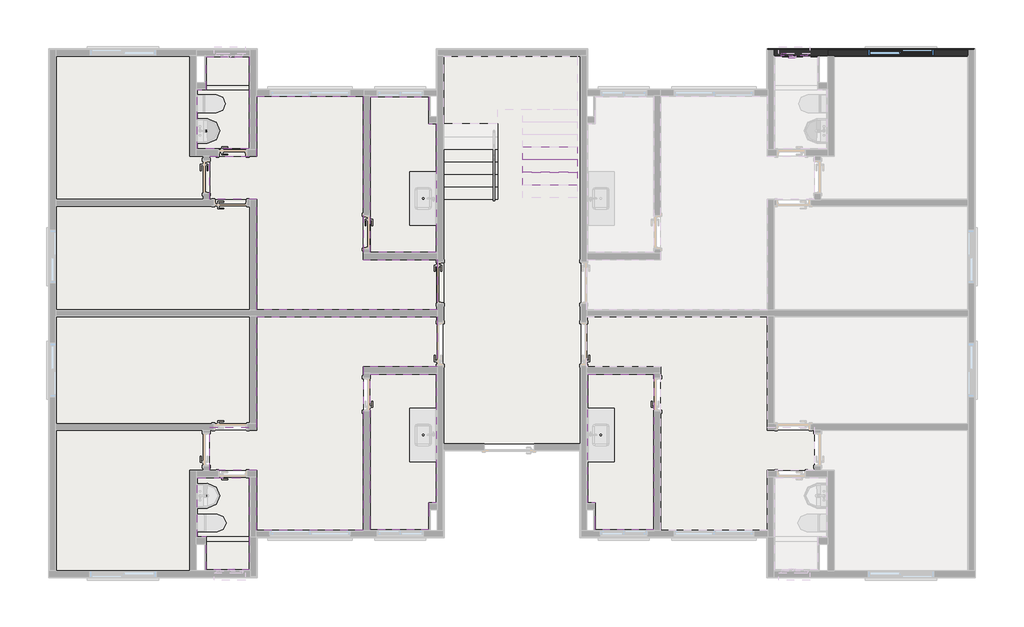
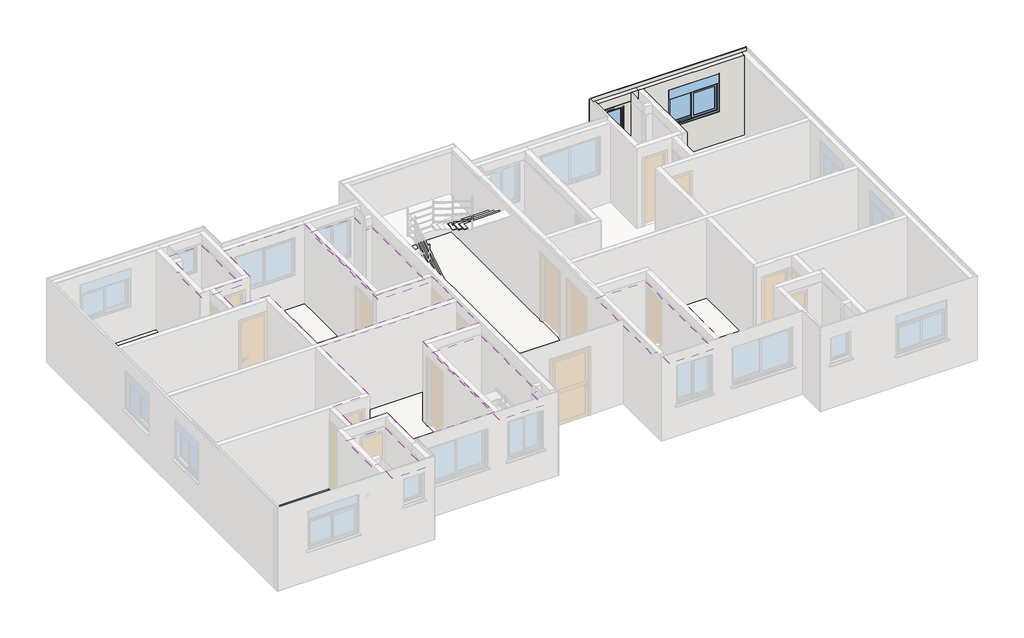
# One storey, part 10 of 11: 27 slabs, 7 coverings, 5 walls, 2 windows.
"""IFC4 building model written with IfcOpenShell, lengths in millimetres."""

from ifc_helpers import new_model, si_unit, frame, origin, origin_with_axes, place, context, project, spatial, polyline, outline, extrude, faceted_brep, transform, mapped, element, save
from components import window_150x120_581fea6a, window_60x80_d31b0025

model = new_model("IFC4")

# Units and contexts
model_context = context("Model", 3, world=origin())
ifc_project = project(units=[si_unit("LENGTHUNIT", "METRE", prefix="MILLI")], contexts=[model_context])

# Site, building, storey
site = spatial("IfcSite", under=ifc_project)
building = spatial("IfcBuilding", under=site)
storey = spatial("IfcBuildingStorey", under=building, Name="Térreo", Elevation=0.0)

# Coverings
placement = place(None, origin())
element("IfcCovering", 1, ObjectType="Forro - Gesso acartonado + Pintura", at=placement, inside=storey, context=model_context, shape_type="Brep", body=[
    faceted_brep([(8536.99631, 1539.9983274, 2201.0), (7233.0017324, 1539.9983274, 2201.0), (7233.0017324, 2145.0132549, 2201.0), (7233.0017324, 5033.6603139, 2201.0), (8709.9963008, 5033.6603139, 2201.0), (8709.9963008, 2145.0132549, 2201.0), (8536.99631, 2145.0132549, 2201.0), (7233.0017324, 1539.9983274, 2221.0), (8536.99631, 1539.9983274, 2221.0), (8536.99631, 2145.0132549, 2221.0), (8709.9963008, 2145.0132549, 2221.0), (8709.9963008, 5033.6603139, 2221.0), (7233.0017324, 5033.6603139, 2221.0), (7233.0017324, 2145.0132549, 2221.0)], [[[0, 1, 2, 3, 4, 5, 6]], [[7, 8, 9, 10, 11, 12, 13]], [[8, 7, 1, 0]], [[9, 8, 0, 6]], [[10, 9, 6, 5]], [[11, 10, 5, 4]], [[12, 11, 4, 3]], [[7, 13, 12, 3, 2, 1]]]),
    faceted_brep([(7233.0017324, 1539.9983274, 2200.0), (8536.99631, 1539.9983274, 2200.0), (8536.99631, 1539.9983274, 2201.0), (7233.0017324, 1539.9983274, 2201.0), (8536.99631, 2145.0132549, 2200.0), (8536.99631, 2145.0132549, 2201.0), (8709.9963008, 2145.0132549, 2200.0), (8709.9963008, 2145.0132549, 2201.0), (8709.9963008, 5033.6603139, 2200.0), (8709.9963008, 5033.6603139, 2201.0), (7233.0017324, 5033.6603139, 2200.0), (7233.0017324, 5033.6603139, 2201.0), (7233.0017324, 2145.0132549, 2200.0), (7233.0017324, 2145.0132549, 2201.0)], [[[0, 1, 2, 3]], [[1, 4, 5, 2]], [[4, 6, 7, 5]], [[6, 8, 9, 7]], [[8, 10, 11, 9]], [[12, 0, 3, 13, 11, 10]], [[3, 2, 5, 7, 9, 11, 13]], [[0, 12, 10, 8, 6, 4, 1]]]),
])
element("IfcCovering", 2, ObjectType="Forro - Gesso acartonado + Pintura", at=placement, inside=storey, context=model_context, shape_type="Brep", body=[
    faceted_brep([(7233.0017324, 11260.0223004, 2201.0), (8536.99631, 11260.0223004, 2201.0), (8536.99631, 10655.0073729, 2201.0), (8709.9963008, 10655.0073729, 2201.0), (8709.9963008, 7766.3603139, 2201.0), (7233.0017324, 7766.3603139, 2201.0), (7233.0017324, 10655.0073729, 2201.0), (7233.0017324, 11260.0223004, 2221.0), (7233.0017324, 10655.0073729, 2221.0), (7233.0017324, 7766.3603139, 2221.0), (8709.9963008, 7766.3603139, 2221.0), (8709.9963008, 10655.0073729, 2221.0), (8536.99631, 10655.0073729, 2221.0), (8536.99631, 11260.0223004, 2221.0)], [[[0, 1, 2, 3, 4, 5, 6]], [[7, 8, 9, 10, 11, 12, 13]], [[7, 13, 1, 0]], [[13, 12, 2, 1]], [[12, 11, 3, 2]], [[11, 10, 4, 3]], [[10, 9, 5, 4]], [[9, 8, 7, 0, 6, 5]]]),
    faceted_brep([(8536.99631, 11260.0223004, 2200.0), (7233.0017324, 11260.0223004, 2200.0), (7233.0017324, 11260.0223004, 2201.0), (8536.99631, 11260.0223004, 2201.0), (8536.99631, 10655.0073729, 2200.0), (8536.99631, 10655.0073729, 2201.0), (8709.9963008, 10655.0073729, 2200.0), (8709.9963008, 10655.0073729, 2201.0), (8709.9963008, 7766.3603139, 2200.0), (8709.9963008, 7766.3603139, 2201.0), (7233.0017324, 7766.3603139, 2200.0), (7233.0017324, 7766.3603139, 2201.0), (7233.0017324, 10655.0073729, 2200.0), (7233.0017324, 10655.0073729, 2201.0)], [[[0, 1, 2, 3]], [[4, 0, 3, 5]], [[6, 4, 5, 7]], [[8, 6, 7, 9]], [[10, 8, 9, 11]], [[12, 10, 11, 13, 2, 1]], [[3, 2, 13, 11, 9, 7, 5]], [[1, 0, 4, 6, 8, 10, 12]]]),
])
element("IfcCovering", 3, ObjectType="Forro - Gesso acartonado + Pintura", at=placement, inside=storey, context=model_context, shape_type="Brep", body=[
    faceted_brep([(3339.9976538, 2709.9967615, 2201.0), (4509.9990083, 2709.9967615, 2201.0), (4509.9990083, 1379.9983274, 2201.0), (4509.9990083, 639.9950349, 2201.0), (3549.99398, 639.9950349, 2201.0), (3549.99398, 1379.9983274, 2201.0), (3339.9976538, 1379.9983274, 2201.0), (4509.9990083, 2709.9967615, 2221.0), (3339.9976538, 2709.9967615, 2221.0), (3339.9976538, 1379.9983274, 2221.0), (3549.99398, 1379.9983274, 2221.0), (3549.99398, 639.9950349, 2221.0), (4509.9990083, 639.9950349, 2221.0), (4509.9990083, 1379.9983274, 2221.0)], [[[0, 1, 2, 3, 4, 5, 6]], [[7, 8, 9, 10, 11, 12, 13]], [[8, 7, 1, 0]], [[9, 8, 0, 6]], [[10, 9, 6, 5]], [[11, 10, 5, 4]], [[12, 11, 4, 3]], [[7, 13, 12, 3, 2, 1]]]),
    faceted_brep([(4509.9990083, 2709.9967615, 2200.0), (3339.9976538, 2709.9967615, 2200.0), (3339.9976538, 2709.9967615, 2201.0), (4509.9990083, 2709.9967615, 2201.0), (3339.9976538, 1379.9983274, 2200.0), (3339.9976538, 1379.9983274, 2201.0), (3549.99398, 1379.9983274, 2200.0), (3549.99398, 1379.9983274, 2201.0), (3549.99398, 639.9950349, 2200.0), (3549.99398, 639.9950349, 2201.0), (4509.9990083, 639.9950349, 2200.0), (4509.9990083, 639.9950349, 2201.0), (4509.9990083, 1379.9983274, 2200.0), (4509.9990083, 1379.9983274, 2201.0)], [[[0, 1, 2, 3]], [[1, 4, 5, 2]], [[4, 6, 7, 5]], [[6, 8, 9, 7]], [[8, 10, 11, 9]], [[12, 0, 3, 13, 11, 10]], [[3, 2, 5, 7, 9, 11, 13]], [[0, 12, 10, 8, 6, 4, 1]]]),
])
element("IfcCovering", 4, ObjectType="Forro - Gesso acartonado + Pintura", at=placement, inside=storey, context=model_context, shape_type="Brep", body=[
    faceted_brep([(4509.9990083, 10090.0238664, 2201.0), (3339.9976538, 10090.0238664, 2201.0), (3339.9976538, 11420.0223004, 2201.0), (3549.99398, 11420.0223004, 2201.0), (3549.99398, 12160.025593, 2201.0), (4509.9990083, 12160.025593, 2201.0), (4509.9990083, 11420.0223004, 2201.0), (4509.9990083, 10090.0238664, 2221.0), (4509.9990083, 11420.0223004, 2221.0), (4509.9990083, 12160.025593, 2221.0), (3549.99398, 12160.025593, 2221.0), (3549.99398, 11420.0223004, 2221.0), (3339.9976538, 11420.0223004, 2221.0), (3339.9976538, 10090.0238664, 2221.0)], [[[0, 1, 2, 3, 4, 5, 6]], [[7, 8, 9, 10, 11, 12, 13]], [[7, 13, 1, 0]], [[13, 12, 2, 1]], [[12, 11, 3, 2]], [[11, 10, 4, 3]], [[10, 9, 5, 4]], [[9, 8, 7, 0, 6, 5]]]),
    faceted_brep([(3339.9976538, 10090.0238664, 2200.0), (4509.9990083, 10090.0238664, 2200.0), (4509.9990083, 10090.0238664, 2201.0), (3339.9976538, 10090.0238664, 2201.0), (3339.9976538, 11420.0223004, 2200.0), (3339.9976538, 11420.0223004, 2201.0), (3549.99398, 11420.0223004, 2200.0), (3549.99398, 11420.0223004, 2201.0), (3549.99398, 12160.025593, 2200.0), (3549.99398, 12160.025593, 2201.0), (4509.9990083, 12160.025593, 2200.0), (4509.9990083, 12160.025593, 2201.0), (4509.9990083, 11420.0223004, 2200.0), (4509.9990083, 11420.0223004, 2201.0)], [[[0, 1, 2, 3]], [[4, 0, 3, 5]], [[6, 4, 5, 7]], [[8, 6, 7, 9]], [[10, 8, 9, 11]], [[12, 10, 11, 13, 2, 1]], [[3, 2, 13, 11, 9, 7, 5]], [[1, 0, 4, 6, 8, 10, 12]]]),
])
element("IfcCovering", 5, ObjectType="Forro - Gesso acartonado + Pintura", at=placement, inside=storey, context=model_context, shape_type="Brep", body=[
    faceted_brep([(13586.992975, 1539.9983274, 2201.0), (12282.9983974, 1539.9983274, 2201.0), (12282.9983974, 2145.0132549, 2201.0), (12109.9984066, 2145.0132549, 2201.0), (12109.9984066, 5033.6603139, 2201.0), (13586.992975, 5033.6603139, 2201.0), (13586.992975, 2145.0132549, 2201.0), (13586.992975, 1539.9983274, 2221.0), (13586.992975, 2145.0132549, 2221.0), (13586.992975, 5033.6603139, 2221.0), (12109.9984066, 5033.6603139, 2221.0), (12109.9984066, 2145.0132549, 2221.0), (12282.9983974, 2145.0132549, 2221.0), (12282.9983974, 1539.9983274, 2221.0)], [[[0, 1, 2, 3, 4, 5, 6]], [[7, 8, 9, 10, 11, 12, 13]], [[7, 13, 1, 0]], [[13, 12, 2, 1]], [[12, 11, 3, 2]], [[11, 10, 4, 3]], [[10, 9, 5, 4]], [[9, 8, 7, 0, 6, 5]]]),
    faceted_brep([(12282.9983974, 1539.9983274, 2200.0), (13586.992975, 1539.9983274, 2200.0), (13586.992975, 1539.9983274, 2201.0), (12282.9983974, 1539.9983274, 2201.0), (12282.9983974, 2145.0132549, 2200.0), (12282.9983974, 2145.0132549, 2201.0), (12109.9984066, 2145.0132549, 2200.0), (12109.9984066, 2145.0132549, 2201.0), (12109.9984066, 5033.6603139, 2200.0), (12109.9984066, 5033.6603139, 2201.0), (13586.992975, 5033.6603139, 2200.0), (13586.992975, 5033.6603139, 2201.0), (13586.992975, 2145.0132549, 2200.0), (13586.992975, 2145.0132549, 2201.0)], [[[0, 1, 2, 3]], [[4, 0, 3, 5]], [[6, 4, 5, 7]], [[8, 6, 7, 9]], [[10, 8, 9, 11]], [[12, 10, 11, 13, 2, 1]], [[3, 2, 13, 11, 9, 7, 5]], [[1, 0, 4, 6, 8, 10, 12]]]),
])
element("IfcCovering", 6, ObjectType="Textura Laje", at=placement, inside=storey, context=model_context, shape_type="SolidModel", body=[
    faceted_brep([(4675.9996867, 8956.0244803, 2510.0), (4675.9996867, 6476.0103139, 2510.0), (8729.9963008, 6476.0103139, 2510.0), (8729.9963008, 7600.3603139, 2510.0), (8709.865378, 7600.3603139, 2510.0), (7066.9986861, 7600.3603139, 2510.0), (7066.9986861, 11274.0223004, 2510.0), (4675.9990083, 11274.0223004, 2510.0), (4675.9990083, 9924.0238664, 2510.0), (3625.9980641, 9924.0238664, 2510.0), (3625.9980641, 8956.0244803, 2510.0), (4675.9996867, 6476.0103139, 2509.0), (4675.9996867, 8956.0244803, 2509.0), (3625.9980641, 8956.0244803, 2509.0), (3625.9980641, 9924.0238664, 2509.0), (4675.9990083, 9924.0238664, 2509.0), (4675.9990083, 11274.0223004, 2509.0), (7066.9986861, 11274.0223004, 2509.0), (7066.9986861, 7600.3603139, 2509.0), (8709.865378, 7600.3603139, 2509.0), (8729.9963008, 7600.3603139, 2509.0), (8729.9963008, 6476.0103139, 2509.0)], [[[0, 1, 2, 3, 4, 5, 6, 7, 8, 9, 10]], [[11, 12, 13, 14, 15, 16, 17, 18, 19, 20, 21]], [[1, 0, 12, 11]], [[2, 1, 11, 21]], [[3, 2, 21, 20]], [[5, 4, 3, 20, 19, 18]], [[6, 5, 18, 17]], [[7, 6, 17, 16]], [[8, 7, 16, 15]], [[9, 8, 15, 14]], [[10, 9, 14, 13]], [[0, 10, 13, 12]]]),
    extrude(outline(polyline([(174.9992567, 6475.0103139), (174.9992567, 8805.0103139), (4524.9996867, 8805.0103139), (4524.9996867, 6475.0103139), (174.9992567, 6475.0103139)])), frame((0.0, 0.0, 2509.0), z_axis=(0.0, 0.0, 1.0), x_axis=(1.0, 0.0, 0.0)), (0.0, 0.0, 1.0), 1.0),
    extrude(outline(polyline([(174.9991825, 12175.0252435), (3174.9977061, 12175.0252435), (3174.9977061, 9925.0238664), (3474.9980641, 9925.0238664), (3474.9980641, 8955.0254246), (174.9991825, 8955.0254246), (174.9991825, 12175.0252435)])), frame((0.0, 0.0, 2509.0), z_axis=(0.0, 0.0, 1.0), x_axis=(1.0, 0.0, 0.0)), (0.0, 0.0, 1.0), 1.0),
    faceted_brep([(4675.9996867, 8956.0244803, 2508.0), (3625.9980641, 8956.0244803, 2508.0), (3625.9980641, 9924.0238664, 2508.0), (4675.9990083, 9924.0238664, 2508.0), (4675.9990083, 11274.0223004, 2508.0), (7066.9986861, 11274.0223004, 2508.0), (7066.9986861, 7600.3603139, 2508.0), (8709.865378, 7600.3603139, 2508.0), (8729.9963008, 7600.3603139, 2508.0), (8729.9963008, 6476.0103139, 2508.0), (4675.9996867, 6476.0103139, 2508.0), (4675.9996867, 8956.0244803, 2509.0), (4675.9996867, 6476.0103139, 2509.0), (8729.9963008, 6476.0103139, 2509.0), (8729.9963008, 7600.3603139, 2509.0), (8709.865378, 7600.3603139, 2509.0), (7066.9986861, 7600.3603139, 2509.0), (7066.9986861, 11274.0223004, 2509.0), (4675.9990083, 11274.0223004, 2509.0), (4675.9990083, 9924.0238664, 2509.0), (3625.9980641, 9924.0238664, 2509.0), (3625.9980641, 8956.0244803, 2509.0)], [[[0, 1, 2, 3, 4, 5, 6, 7, 8, 9, 10]], [[11, 12, 13, 14, 15, 16, 17, 18, 19, 20, 21]], [[0, 10, 12, 11]], [[10, 9, 13, 12]], [[9, 8, 14, 13]], [[7, 6, 16, 15, 14, 8]], [[6, 5, 17, 16]], [[5, 4, 18, 17]], [[4, 3, 19, 18]], [[3, 2, 20, 19]], [[2, 1, 21, 20]], [[1, 0, 11, 21]]]),
    extrude(outline(polyline([(174.9992567, 8805.0103139), (4524.9996867, 8805.0103139), (4524.9996867, 6475.0103139), (174.9992567, 6475.0103139), (174.9992567, 8805.0103139)])), frame((0.0, 0.0, 2508.0), z_axis=(0.0, 0.0, 1.0), x_axis=(1.0, 0.0, 0.0)), (0.0, 0.0, 1.0), 1.0),
    extrude(outline(polyline([(174.9991825, 12175.0252435), (3174.9977061, 12175.0252435), (3174.9977061, 9925.0238664), (3474.9980641, 9925.0238664), (3474.9980641, 8955.0254246), (174.9991825, 8955.0254246), (174.9991825, 12175.0252435)])), frame((0.0, 0.0, 2508.0), z_axis=(0.0, 0.0, 1.0), x_axis=(1.0, 0.0, 0.0)), (0.0, 0.0, 1.0), 1.0),
])
element("IfcCovering", 7, ObjectType="Textura Laje", at=placement, inside=storey, context=model_context, shape_type="SolidModel", body=[
    faceted_brep([(4675.9996867, 3843.9961476, 2510.0), (4675.9996867, 6324.0103139, 2510.0), (4675.9996867, 6324.0103139, 2509.0), (4675.9996867, 3843.9961476, 2509.0), (8729.9963008, 6324.0103139, 2510.0), (8729.9963008, 6324.0103139, 2509.0), (8729.9963008, 5199.6603139, 2510.0), (8729.9963008, 5199.6603139, 2509.0), (7066.9986861, 5199.6603139, 2510.0), (7066.9986861, 1525.9983274, 2510.0), (7066.9986861, 1525.9983274, 2509.0), (7066.9986861, 5199.6603139, 2509.0), (4675.9990083, 1525.9983274, 2510.0), (4675.9990083, 1525.9983274, 2509.0), (4675.9990083, 2875.9967615, 2510.0), (4675.9990083, 2875.9967615, 2509.0), (3625.9980641, 2875.9967615, 2510.0), (3625.9980641, 2875.9967615, 2509.0), (3625.9980641, 3843.9961476, 2510.0), (3625.9980641, 3843.9961476, 2509.0), (8709.865378, 5199.6603139, 2510.0), (8709.865378, 5199.6603139, 2509.0)], [[[0, 1, 2, 3]], [[1, 4, 5, 2]], [[4, 6, 7, 5]], [[8, 9, 10, 11]], [[9, 12, 13, 10]], [[12, 14, 15, 13]], [[14, 16, 17, 15]], [[16, 18, 19, 17]], [[18, 0, 3, 19]], [[6, 20, 8, 11, 21, 7]], [[0, 18, 16, 14, 12, 9, 8, 20, 6, 4, 1]], [[3, 2, 5, 7, 21, 11, 10, 13, 15, 17, 19]]]),
    extrude(outline(polyline([(3174.9977061, 624.9953844), (175.9991825, 624.9953844), (175.9991825, 3773.9951411), (3474.9980641, 3773.9951411), (3474.9980641, 2874.9967615), (3174.9977061, 2874.9967615), (3174.9977061, 624.9953844)])), frame((0.0, 0.0, 2509.0), z_axis=(0.0, 0.0, 1.0), x_axis=(1.0, 0.0, 0.0)), (0.0, 0.0, 1.0), 1.0),
    extrude(outline(polyline([(174.9992567, 3926.5903488), (174.9992567, 6325.0103139), (4524.9996867, 6325.0103139), (4524.9996867, 3926.5903488), (174.9992567, 3926.5903488)])), frame((0.0, 0.0, 2509.0), z_axis=(0.0, 0.0, 1.0), x_axis=(1.0, 0.0, 0.0)), (0.0, 0.0, 1.0), 1.0),
    faceted_brep([(4675.9996867, 6324.0103139, 2508.0), (4675.9996867, 3843.9961476, 2508.0), (4675.9996867, 3843.9961476, 2509.0), (4675.9996867, 6324.0103139, 2509.0), (8729.9963008, 6324.0103139, 2508.0), (8729.9963008, 6324.0103139, 2509.0), (8729.9963008, 5199.6603139, 2508.0), (8729.9963008, 5199.6603139, 2509.0), (7066.9986861, 1525.9983274, 2508.0), (7066.9986861, 5199.6603139, 2508.0), (7066.9986861, 5199.6603139, 2509.0), (7066.9986861, 1525.9983274, 2509.0), (4675.9990083, 1525.9983274, 2508.0), (4675.9990083, 1525.9983274, 2509.0), (4675.9990083, 2875.9967615, 2508.0), (4675.9990083, 2875.9967615, 2509.0), (3625.9980641, 2875.9967615, 2508.0), (3625.9980641, 2875.9967615, 2509.0), (3625.9980641, 3843.9961476, 2508.0), (3625.9980641, 3843.9961476, 2509.0), (8709.865378, 5199.6603139, 2508.0), (8709.865378, 5199.6603139, 2509.0)], [[[0, 1, 2, 3]], [[4, 0, 3, 5]], [[6, 4, 5, 7]], [[8, 9, 10, 11]], [[12, 8, 11, 13]], [[14, 12, 13, 15]], [[16, 14, 15, 17]], [[18, 16, 17, 19]], [[1, 18, 19, 2]], [[1, 0, 4, 6, 20, 9, 8, 12, 14, 16, 18]], [[20, 6, 7, 21, 10, 9]], [[3, 2, 19, 17, 15, 13, 11, 10, 21, 7, 5]]]),
    extrude(outline(polyline([(174.9992567, 3926.5903488), (174.9992567, 6325.0103139), (4524.9996867, 6325.0103139), (4524.9996867, 3926.5903488), (174.9992567, 3926.5903488)])), frame((0.0, 0.0, 2508.0), z_axis=(0.0, 0.0, 1.0), x_axis=(1.0, 0.0, 0.0)), (0.0, 0.0, 1.0), 1.0),
    extrude(outline(polyline([(175.9991825, 624.9953844), (175.9991825, 3773.9951411), (3474.9980641, 3773.9951411), (3474.9980641, 2874.9967615), (3174.9977061, 2874.9967615), (3174.9977061, 624.9953844), (175.9991825, 624.9953844)])), frame((0.0, 0.0, 2508.0), z_axis=(0.0, 0.0, 1.0), x_axis=(1.0, 0.0, 0.0)), (0.0, 0.0, 1.0), 1.0),
])

# Slabs
element("IfcSlab", 8, ObjectType="Pedra Basalto", at=placement, inside=storey, context=model_context, shape_type="SweptSolid", body=[
    extrude(outline(polyline([(4509.99398, 11515.0235306), (4509.99398, 11415.0235306), (3529.99398, 11415.0235306), (3529.99398, 11515.0235306), (4509.99398, 11515.0235306)])), frame((0.0, 0.0, 90.0), z_axis=(0.0, 0.0, 1.0), x_axis=(1.0, 0.0, 0.0)), (0.0, 0.0, 1.0), 20.0),
])
element("IfcSlab", 9, ObjectType="Cerâmica piso + Impermeabilização", at=placement, inside=storey, context=model_context, shape_type="SweptSolid", body=[
    extrude(outline(polyline([(4509.99398, 1294.9970972), (4509.99398, 639.9950349), (3549.99398, 639.9950349), (3549.99398, 1294.9970972), (4509.99398, 1294.9970972)])), frame((0.0, 0.0, -1.0), z_axis=(0.0, 0.0, 1.0), x_axis=(1.0, 0.0, 0.0)), (0.0, 0.0, 1.0), 11.0),
])
element("IfcSlab", 10, ObjectType="Pedra Basalto", at=placement, inside=storey, context=model_context, shape_type="SweptSolid", body=[
    extrude(outline(polyline([(4509.99398, 1284.9970972), (3529.99398, 1284.9970972), (3529.99398, 1384.9970972), (4509.99398, 1384.9970972), (4509.99398, 1284.9970972)])), frame((0.0, 0.0, 90.0), z_axis=(0.0, 0.0, 1.0), x_axis=(1.0, 0.0, 0.0)), (0.0, 0.0, 1.0), 20.0),
])
element("IfcSlab", 11, ObjectType="Cerâmica", at=placement, inside=storey, context=model_context, shape_type="SweptSolid", body=[
    extrude(outline(polyline([(4509.9990083, 1379.9970972), (3339.9976538, 1379.9970972), (3339.9976538, 2709.9967615), (4509.9990083, 2709.9967615), (4509.9990083, 1379.9970972)])), origin_with_axes(), (0.0, 0.0, 1.0), 10.0),
])
element("IfcSlab", 12, ObjectType="Cerâmica", at=placement, inside=storey, context=model_context, shape_type="SweptSolid", body=[
    extrude(outline(polyline([(8709.9963008, 5033.6603139), (8709.9963008, 2145.0132549), (8536.99631, 2145.0132549), (8536.99631, 1539.9983274), (7233.0017324, 1539.9983274), (7233.0017324, 2145.0132549), (7233.0017324, 5033.6603139), (8709.9963008, 5033.6603139)])), origin_with_axes(), (0.0, 0.0, 1.0), 10.0),
])
element("IfcSlab", 13, ObjectType="Cerâmica piso + Impermeabilização", at=placement, inside=storey, context=model_context, shape_type="SweptSolid", body=[
    extrude(outline(polyline([(4509.99398, 11505.0235306), (3549.99398, 11505.0235306), (3549.99398, 12160.025593), (4509.99398, 12160.025593), (4509.99398, 11505.0235306)])), frame((0.0, 0.0, -1.0), z_axis=(0.0, 0.0, 1.0), x_axis=(1.0, 0.0, 0.0)), (0.0, 0.0, 1.0), 11.0),
])
element("IfcSlab", 14, ObjectType="Cerâmica", at=placement, inside=storey, context=model_context, shape_type="SweptSolid", body=[
    extrude(outline(polyline([(4509.9990083, 11420.0235306), (4509.9990083, 10090.0238664), (3339.9976538, 10090.0238664), (3339.9976538, 11420.0235306), (4509.9990083, 11420.0235306)])), origin_with_axes(), (0.0, 0.0, 1.0), 10.0),
])
element("IfcSlab", 15, ObjectType="Cerâmica", at=placement, inside=storey, context=model_context, shape_type="SweptSolid", body=[
    extrude(outline(polyline([(8709.9963008, 7766.3603139), (7233.0017324, 7766.3603139), (7233.0017324, 10655.0073729), (7233.0017324, 11260.0223004), (8536.99631, 11260.0223004), (8536.99631, 10655.0073729), (8709.9963008, 10655.0073729), (8709.9963008, 7766.3603139)])), origin_with_axes(), (0.0, 0.0, 1.0), 10.0),
])
element("IfcSlab", 16, ObjectType="Cerâmica", at=placement, inside=storey, context=model_context, shape_type="SweptSolid", body=[
    extrude(outline(polyline([(8723.9963008, 6324.0103139), (8723.9963008, 5199.6603139), (7066.9986861, 5199.6603139), (7066.9986861, 1519.9983274), (4675.9990083, 1519.9983274), (4675.9990083, 2875.9967615), (3625.9980641, 2875.9967615), (3625.9980641, 3773.9951411), (4675.9996867, 3773.9951411), (4675.9996867, 6324.0103139), (8723.9963008, 6324.0103139)])), origin_with_axes(), (0.0, 0.0, 1.0), 10.0),
])
element("IfcSlab", 17, ObjectType="Vinilico", at=placement, inside=storey, context=model_context, shape_type="SweptSolid", body=[
    extrude(outline(polyline([(4523.9996867, 6324.0103139), (4523.9996867, 3925.9951411), (175.9991825, 3925.9951411), (175.9991825, 6324.0103139), (4523.9996867, 6324.0103139)])), origin_with_axes(), (0.0, 0.0, 1.0), 10.0),
])
element("IfcSlab", 18, ObjectType="Vinilico", at=placement, inside=storey, context=model_context, shape_type="SweptSolid", body=[
    extrude(outline(polyline([(4523.9996867, 8804.0244803), (4523.9996867, 6476.0103139), (175.9991825, 6476.0103139), (175.9991825, 8804.0244803), (4523.9996867, 8804.0244803)])), origin_with_axes(), (0.0, 0.0, 1.0), 10.0),
])
element("IfcSlab", 19, ObjectType="Cerâmica", at=placement, inside=storey, context=model_context, shape_type="SweptSolid", body=[
    extrude(outline(polyline([(8723.9963008, 6476.0103139), (4675.9996867, 6476.0103139), (4675.9996867, 8956.0244803), (3625.9980641, 8956.0244803), (3625.9980641, 9924.0238664), (4675.9990083, 9924.0238664), (4675.9990083, 11280.0223004), (7066.9986861, 11280.0223004), (7066.9986861, 7600.3603139), (8723.9963008, 7600.3603139), (8723.9963008, 6476.0103139)])), origin_with_axes(), (0.0, 0.0, 1.0), 10.0),
])
element("IfcSlab", 20, ObjectType="Vinilico", at=placement, inside=storey, context=model_context, shape_type="SweptSolid", body=[
    extrude(outline(polyline([(175.9991825, 12174.0253822), (3173.9976538, 12174.0253822), (3173.9976538, 9924.0253822), (3473.9976538, 9924.0253822), (3473.9976538, 8954.0253822), (175.9991825, 8954.0253822), (175.9991825, 12174.0253822)])), origin_with_axes(), (0.0, 0.0, 1.0), 10.0),
])
element("IfcSlab", 21, ObjectType="Vinilico", at=placement, inside=storey, context=model_context, shape_type="SweptSolid", body=[
    extrude(outline(polyline([(175.9991825, 625.9952456), (175.9991825, 3845.9952456), (3473.9976538, 3845.9952456), (3473.9976538, 2875.9952456), (3173.9976538, 2875.9952456), (3173.9976538, 625.9952456), (175.9991825, 625.9952456)])), origin_with_axes(), (0.0, 0.0, 1.0), 10.0),
])
element("IfcSlab", 22, ObjectType="Cerâmica", at=placement, inside=storey, context=model_context, shape_type="SweptSolid", body=[
    extrude(outline(polyline([(12109.9984066, 5033.6603139), (13586.992975, 5033.6603139), (13586.992975, 2145.0132549), (13586.992975, 1539.9983274), (12282.9983974, 1539.9983274), (12282.9983974, 2145.0132549), (12109.9984066, 2145.0132549), (12109.9984066, 5033.6603139)])), origin_with_axes(), (0.0, 0.0, 1.0), 10.0),
])
element("IfcSlab", 23, ObjectType="Cerâmica", at=placement, inside=storey, context=model_context, shape_type="SweptSolid", body=[
    extrude(outline(polyline([(12095.9984066, 6324.0103139), (16143.9950207, 6324.0103139), (16143.9950207, 3773.9951411), (17193.9966432, 3773.9951411), (17193.9966432, 2875.9967615), (16143.9956991, 2875.9967615), (16143.9956991, 1519.9983274), (13752.9960213, 1519.9983274), (13752.9960213, 5199.6603139), (12095.9984066, 5199.6603139), (12095.9984066, 6324.0103139)])), origin_with_axes(), (0.0, 0.0, 1.0), 10.0),
])
element("IfcSlab", 24, ObjectType="Soleira", at=placement, inside=storey, context=model_context, shape_type="SweptSolid", body=[
    extrude(outline(polyline([(4467.999908, 8956.0244803), (4467.999908, 8804.0244803), (3717.999908, 8804.0244803), (3717.999908, 8956.0244803), (4467.999908, 8956.0244803)])), origin_with_axes(), (0.0, 0.0, 1.0), 10.0),
])
element("IfcSlab", 25, ObjectType="Soleira", at=placement, inside=storey, context=model_context, shape_type="SweptSolid", body=[
    extrude(outline(polyline([(3625.9980641, 9832.0248023), (3625.9980641, 9082.0248023), (3473.9980641, 9082.0248023), (3473.9980641, 9832.0248023), (3625.9980641, 9832.0248023)])), origin_with_axes(), (0.0, 0.0, 1.0), 10.0),
    extrude(outline(polyline([(4462.9990083, 10090.0238664), (4462.9990083, 9924.0238664), (3812.9990083, 9924.0238664), (3812.9990083, 10090.0238664), (4462.9990083, 10090.0238664)])), origin_with_axes(), (0.0, 0.0, 1.0), 10.0),
])
element("IfcSlab", 26, ObjectType="Soleira", at=placement, inside=storey, context=model_context, shape_type="SweptSolid", body=[
    extrude(outline(polyline([(7233.0017324, 8596.3603139), (7233.0017324, 7846.3603139), (7066.9986861, 7846.3603139), (7066.9986861, 8596.3603139), (7233.0017324, 8596.3603139)])), origin_with_axes(), (0.0, 0.0, 1.0), 10.0),
    extrude(outline(polyline([(8723.9963008, 7560.0103139), (8875.9991022, 7560.0103139), (8875.9991022, 6610.0103139), (8723.9963008, 6610.0103139), (8723.9963008, 7560.0103139)])), origin_with_axes(), (0.0, 0.0, 1.0), 10.0),
])
element("IfcSlab", 27, ObjectType="Degrau escada", at=placement, inside=storey, context=model_context, shape_type="SweptSolid", body=[
    extrude(outline(polyline([(10094.9954646, 9535.5366253), (10094.9954646, 9240.5366053), (8879.9954646, 9240.5366053), (8879.9954646, 9535.5366253), (10094.9954646, 9535.5366253)])), frame((0.0, 0.0, 350.6), z_axis=(0.0, 0.0, 1.0), x_axis=(1.0, 0.0, 0.0)), (0.0, 0.0, 1.0), 20.0),
])
element("IfcSlab", 28, ObjectType="Degrau escada", at=placement, inside=storey, context=model_context, shape_type="SweptSolid", body=[
    extrude(outline(polyline([(10094.9954646, 9815.5366253), (10094.9954646, 9520.5366053), (8879.9954646, 9520.5366053), (8879.9954646, 9815.5366253), (10094.9954646, 9815.5366253)])), frame((0.0, 0.0, 525.9), z_axis=(0.0, 0.0, 1.0), x_axis=(1.0, 0.0, 0.0)), (0.0, 0.0, 1.0), 20.0),
])
element("IfcSlab", 29, ObjectType="Degrau escada", at=placement, inside=storey, context=model_context, shape_type="SweptSolid", body=[
    extrude(outline(polyline([(10094.9954646, 10095.5366253), (10094.9954646, 9800.5366053), (8879.9954646, 9800.5366053), (8879.9954646, 10095.5366253), (10094.9954646, 10095.5366253)])), frame((0.0, 0.0, 701.2), z_axis=(0.0, 0.0, 1.0), x_axis=(1.0, 0.0, 0.0)), (0.0, 0.0, 1.0), 20.0),
])
element("IfcSlab", 30, ObjectType="Degrau escada", at=placement, inside=storey, context=model_context, shape_type="SweptSolid", body=[
    extrude(outline(polyline([(10094.9954646, 9255.5366253), (10094.9954646, 8960.5366053), (8879.9954646, 8960.5366053), (8879.9954646, 9255.5366253), (10094.9954646, 9255.5366253)])), frame((0.0, 0.0, 175.3), z_axis=(0.0, 0.0, 1.0), x_axis=(1.0, 0.0, 0.0)), (0.0, 0.0, 1.0), 20.0),
])
element("IfcSlab", 31, ObjectType="Degrau escada", at=placement, inside=storey, context=model_context, shape_type="SweptSolid", body=[
    extrude(outline(polyline([(11869.9958537, 10139.9988327), (11869.9958537, 9844.9988127), (10654.9958537, 9844.9988127), (10654.9958537, 10139.9988327), (11869.9958537, 10139.9988327)])), frame((0.0, 0.0, 1928.3), z_axis=(0.0, 0.0, 1.0), x_axis=(1.0, 0.0, 0.0)), (0.0, 0.0, 1.0), 20.0),
])
element("IfcSlab", 32, ObjectType="Degrau escada", at=placement, inside=storey, context=model_context, shape_type="SweptSolid", body=[
    extrude(outline(polyline([(11869.9958537, 9854.9988327), (11869.9958537, 9559.9988127), (10654.9958537, 9559.9988127), (10654.9958537, 9854.9988327), (11869.9958537, 9854.9988327)])), frame((0.0, 0.0, 2103.6), z_axis=(0.0, 0.0, 1.0), x_axis=(1.0, 0.0, 0.0)), (0.0, 0.0, 1.0), 20.0),
])
element("IfcSlab", 33, ObjectType="Degrau escada", at=placement, inside=storey, context=model_context, shape_type="SweptSolid", body=[
    extrude(outline(polyline([(11869.9958537, 9574.9988327), (11869.9958537, 9279.9988127), (10654.9958537, 9279.9988127), (10654.9958537, 9574.9988327), (11869.9958537, 9574.9988327)])), frame((0.0, 0.0, 2278.9), z_axis=(0.0, 0.0, 1.0), x_axis=(1.0, 0.0, 0.0)), (0.0, 0.0, 1.0), 20.0),
])
element("IfcSlab", 34, ObjectType="Porcelanato", at=placement, inside=storey, context=model_context, shape_type="SweptSolid", body=[
    extrude(outline(polyline([(11949.9956991, 3470.00443), (8869.9991022, 3470.00443), (8869.9991022, 12179.9988127), (11949.9956991, 12179.9988127), (11949.9956991, 3470.00443)])), origin_with_axes(), (0.0, 0.0, 1.0), 10.0),
])

# Walls
element("IfcWall", 35, ObjectType="Alvenaria Estrutural", at=placement, inside=storey, context=model_context, shape_type="Brep", body=[
    faceted_brep([(17499.9970013, 12320.0252435, 0.0), (20649.9955249, 12320.0252435, 0.0), (20649.9955249, 12180.0252435, 0.0), (20643.9955249, 12180.0252435, 0.0), (17639.9970013, 12180.0252435, 0.0), (17499.9970013, 12180.0252435, 0.0), (20649.9955249, 12320.0252435, 2510.0), (17499.9970013, 12320.0252435, 2510.0), (17499.9970013, 12180.0252435, 2510.0), (17639.9970013, 12180.0252435, 2510.0), (20643.9955249, 12180.0252435, 2510.0), (20649.9955249, 12180.0252435, 2510.0), (18394.9962631, 12320.0252435, 1000.0), (18394.9962631, 12320.0252435, 2200.0), (18394.9962631, 12180.0252435, 2200.0), (18394.9962631, 12180.0252435, 1000.0), (18394.9962631, 12222.5252435, 1000.0), (19894.9962631, 12320.0252435, 2200.0), (19894.9962631, 12180.0252435, 2200.0), (19894.9962631, 12320.0252435, 1000.0), (19894.9962631, 12222.5252435, 1000.0), (19894.9962631, 12180.0252435, 1000.0), (19944.9962631, 12320.0252435, 1000.0), (19944.9962631, 12320.0252435, 951.3083694), (19944.9962631, 12222.5252435, 972.0326341), (19944.9962631, 12222.5252435, 1000.0), (18344.9962631, 12320.0252435, 951.3083694), (18344.9962631, 12320.0252435, 1000.0), (18344.9962631, 12222.5252435, 1000.0), (18344.9962631, 12222.5252435, 972.0326341)], [[[0, 1, 2, 3, 4, 5]], [[6, 7, 8, 9, 10, 11]], [[12, 13, 14, 15, 16]], [[13, 17, 18, 14]], [[17, 19, 20, 21, 18]], [[15, 21, 20, 16]], [[22, 23, 24, 25]], [[26, 27, 28, 29]], [[16, 20, 25, 24, 29, 28]], [[19, 22, 25, 20]], [[23, 26, 29, 24]], [[27, 12, 16, 28]], [[5, 4, 3, 2, 11, 10, 9, 8], [15, 14, 18, 21]], [[1, 0, 7, 6], [13, 12, 27, 26, 23, 22, 19, 17]], [[7, 0, 5, 8]], [[1, 6, 11, 2]]]),
    faceted_brep([(20649.9955249, 12320.0252435, 0.0), (17499.9970013, 12320.0252435, 0.0), (17499.9970013, 12320.0252435, 2510.0), (20649.9955249, 12320.0252435, 2510.0), (18394.9962631, 12320.0252435, 2200.0), (18394.9962631, 12320.0252435, 1000.0), (18344.9962631, 12320.0252435, 1000.0), (18344.9962631, 12320.0252435, 951.3083694), (19944.9962631, 12320.0252435, 951.3083694), (19944.9962631, 12320.0252435, 1000.0), (19894.9962631, 12320.0252435, 1000.0), (19894.9962631, 12320.0252435, 2200.0), (17499.9970013, 12180.0252435, 0.0), (17639.9970013, 12180.0252435, 0.0), (20643.9955249, 12180.0252435, 0.0), (20649.9955249, 12180.0252435, 0.0), (20649.9955249, 12180.0252435, 2510.0), (20643.9955249, 12180.0252435, 2510.0), (17639.9970013, 12180.0252435, 2510.0), (17499.9970013, 12180.0252435, 2510.0), (18394.9962631, 12180.0252435, 1000.0), (18394.9962631, 12180.0252435, 2200.0), (19894.9962631, 12180.0252435, 2200.0), (19894.9962631, 12180.0252435, 1000.0), (18394.9962631, 12222.5252435, 1000.0), (19894.9962631, 12222.5252435, 1000.0), (19944.9962631, 12222.5252435, 972.0326341), (19944.9962631, 12222.5252435, 1000.0), (18344.9962631, 12222.5252435, 1000.0), (18344.9962631, 12222.5252435, 972.0326341)], [[[0, 1, 2, 3], [4, 5, 6, 7, 8, 9, 10, 11]], [[12, 13, 14, 15, 16, 17, 18, 19], [20, 21, 22, 23]], [[1, 0, 15, 14, 13, 12]], [[3, 2, 19, 18, 17, 16]], [[5, 4, 21, 20, 24]], [[4, 11, 22, 21]], [[11, 10, 25, 23, 22]], [[20, 23, 25, 24]], [[9, 8, 26, 27]], [[7, 6, 28, 29]], [[24, 25, 27, 26, 29, 28]], [[10, 9, 27, 25]], [[8, 7, 29, 26]], [[2, 1, 12, 19]], [[0, 3, 16, 15]], [[6, 5, 24, 28]]]),
])
element("IfcWall", 36, ObjectType="Alvenaria Estrutural", at=placement, inside=storey, context=model_context, shape_type="Brep", body=[
    faceted_brep([(16289.9960602, 12320.025593, 0.0), (17499.9970013, 12320.025593, 0.0), (17499.9970013, 12180.025593, 0.0), (17303.0007274, 12180.025593, 0.0), (17280.0007274, 12180.025593, 0.0), (16309.9956991, 12180.025593, 0.0), (16289.9960602, 12180.025593, 0.0), (17499.9970013, 12320.025593, 2510.0), (16289.9960602, 12320.025593, 2510.0), (16289.9960602, 12180.025593, 2510.0), (17280.0007274, 12180.025593, 2510.0), (17303.0007274, 12180.025593, 2510.0), (17499.9970013, 12180.025593, 2510.0), (17099.9960602, 12320.025593, 1400.0), (17099.9960602, 12320.025593, 1351.3083694), (17099.9960602, 12222.525593, 1372.0326341), (17099.9960602, 12222.525593, 1400.0), (16399.9960602, 12320.025593, 1351.3083694), (16399.9960602, 12320.025593, 1400.0), (16399.9960602, 12222.525593, 1400.0), (16399.9960602, 12222.525593, 1372.0326341), (16449.9960602, 12222.525593, 1400.0), (17049.9960602, 12222.525593, 1400.0), (17049.9960602, 12320.025593, 1400.0), (16449.9960602, 12320.025593, 1400.0), (16449.9960602, 12320.025593, 2200.0), (16449.9960602, 12180.025593, 2200.0), (16449.9960602, 12180.025593, 1400.0), (17049.9960602, 12320.025593, 2200.0), (17049.9960602, 12180.025593, 2200.0), (17049.9960602, 12180.025593, 1400.0), (16289.9960602, 12180.025593, 2250.0)], [[[0, 1, 2, 3, 4, 5, 6]], [[7, 8, 9, 10, 11, 12]], [[13, 14, 15, 16]], [[17, 18, 19, 20]], [[16, 15, 20, 19, 21, 22]], [[23, 13, 16, 22]], [[14, 17, 20, 15]], [[24, 25, 26, 27, 21]], [[25, 28, 29, 26]], [[28, 23, 22, 30, 29]], [[27, 30, 22, 21]], [[18, 24, 21, 19]], [[1, 0, 8, 7], [14, 13, 23, 28, 25, 24, 18, 17]], [[6, 5, 4, 3, 2, 12, 11, 10, 9, 31], [27, 26, 29, 30]], [[1, 7, 12, 2]], [[8, 0, 6, 31, 9]]]),
    faceted_brep([(17499.9970013, 12320.025593, 0.0), (16289.9960602, 12320.025593, 0.0), (16289.9960602, 12320.025593, 2510.0), (17499.9970013, 12320.025593, 2510.0), (17099.9960602, 12320.025593, 1351.3083694), (17099.9960602, 12320.025593, 1400.0), (17049.9960602, 12320.025593, 1400.0), (17049.9960602, 12320.025593, 2200.0), (16449.9960602, 12320.025593, 2200.0), (16449.9960602, 12320.025593, 1400.0), (16399.9960602, 12320.025593, 1400.0), (16399.9960602, 12320.025593, 1351.3083694), (16289.9960602, 12180.025593, 0.0), (16309.9956991, 12180.025593, 0.0), (17280.0007274, 12180.025593, 0.0), (17303.0007274, 12180.025593, 0.0), (17499.9970013, 12180.025593, 0.0), (17499.9970013, 12180.025593, 2510.0), (17303.0007274, 12180.025593, 2510.0), (17280.0007274, 12180.025593, 2510.0), (16289.9960602, 12180.025593, 2510.0), (16289.9960602, 12180.025593, 2250.0), (16449.9960602, 12180.025593, 1400.0), (16449.9960602, 12180.025593, 2200.0), (17049.9960602, 12180.025593, 2200.0), (17049.9960602, 12180.025593, 1400.0), (17099.9960602, 12222.525593, 1372.0326341), (17099.9960602, 12222.525593, 1400.0), (16399.9960602, 12222.525593, 1400.0), (16399.9960602, 12222.525593, 1372.0326341), (16449.9960602, 12222.525593, 1400.0), (17049.9960602, 12222.525593, 1400.0)], [[[0, 1, 2, 3], [4, 5, 6, 7, 8, 9, 10, 11]], [[12, 13, 14, 15, 16, 17, 18, 19, 20, 21], [22, 23, 24, 25]], [[1, 0, 16, 15, 14, 13, 12]], [[3, 2, 20, 19, 18, 17]], [[5, 4, 26, 27]], [[11, 10, 28, 29]], [[27, 26, 29, 28, 30, 31]], [[6, 5, 27, 31]], [[4, 11, 29, 26]], [[9, 8, 23, 22, 30]], [[8, 7, 24, 23]], [[7, 6, 31, 25, 24]], [[22, 25, 31, 30]], [[0, 3, 17, 16]], [[2, 1, 12, 21, 20]], [[10, 9, 30, 28]]]),
])
element("IfcWall", 37, ObjectType="Azulejo", at=placement, inside=storey, context=model_context, shape_type="SolidModel", body=[
    faceted_brep([(17270.0007274, 12160.025593, 0.0), (16309.9956991, 12160.025593, 0.0), (16309.9956991, 12170.025593, 0.0), (17280.0007274, 12170.025593, 0.0), (17280.0007274, 12160.025593, 0.0), (17270.0007274, 12160.025593, 2250.0), (17280.0007274, 12160.025593, 2250.0), (17280.0007274, 12170.025593, 2250.0), (16309.9956991, 12170.025593, 2250.0), (16309.9956991, 12160.025593, 2250.0), (16449.9960602, 12160.025593, 2200.0), (16449.9960602, 12160.025593, 1400.0), (16449.9960602, 12170.025593, 1400.0), (16449.9960602, 12170.025593, 2200.0), (17049.9960602, 12160.025593, 2200.0), (17049.9960602, 12170.025593, 2200.0), (17049.9960602, 12160.025593, 1400.0), (17049.9960602, 12170.025593, 1400.0)], [[[0, 1, 2, 3, 4]], [[5, 6, 7, 8, 9]], [[10, 11, 12, 13]], [[14, 10, 13, 15]], [[16, 14, 15, 17]], [[11, 16, 17, 12]], [[1, 9, 8, 2]], [[6, 4, 3, 7]], [[3, 2, 8, 7], [13, 12, 17, 15]], [[1, 0, 4, 6, 5, 9], [11, 10, 14, 16]]]),
    extrude(outline(polyline([(0.0, 16299.9956991), (0.0, 17280.0007274), (2250.0, 17280.0007274), (2250.0, 16299.9956991), (0.0, 16299.9956991)]), holes=[polyline([(1400.0, 16449.9960602), (2200.0, 16449.9960602), (2200.0, 17049.9960602), (1400.0, 17049.9960602), (1400.0, 16449.9960602)])]), frame((0.0, 12170.025593, 0.0), z_axis=(0.0, 1.0, 0.0), x_axis=(0.0, 0.0, 1.0)), (0.0, 0.0, 1.0), 10.0),
])
element("IfcWall", 38, ObjectType="Gesso Liso + Pintura", at=placement, inside=storey, context=model_context, shape_type="SolidModel", body=[
    faceted_brep([(20643.9955249, 12175.0253822, 0.0), (20643.9955249, 12174.0253822, 0.0), (17645.9970535, 12174.0253822, 0.0), (17644.9970535, 12174.0253822, 0.0), (17644.9970535, 12175.0253822, 0.0), (17645.9970535, 12174.0253822, 2510.0), (20643.9955249, 12174.0253822, 2510.0), (20643.9955249, 12175.0253822, 2510.0), (17644.9970535, 12175.0253822, 2510.0), (17644.9970535, 12174.0253822, 2510.0), (18394.9962631, 12174.0253822, 2200.0), (18394.9962631, 12174.0253822, 1000.0), (18394.9962631, 12175.0253822, 1000.0), (18394.9962631, 12175.0253822, 2200.0), (19894.9962631, 12175.0253822, 2200.0), (19894.9962631, 12174.0253822, 2200.0), (19894.9962631, 12175.0253822, 1000.0), (19894.9962631, 12174.0253822, 1000.0)], [[[0, 1, 2, 3, 4]], [[5, 6, 7, 8, 9]], [[10, 11, 12, 13]], [[10, 13, 14, 15]], [[15, 14, 16, 17]], [[12, 11, 17, 16]], [[1, 0, 7, 6]], [[7, 0, 4, 8], [13, 12, 16, 14]], [[2, 1, 6, 5, 9, 3], [11, 10, 15, 17]], [[4, 3, 9, 8]]]),
    extrude(outline(polyline([(0.0, 17639.9970013), (0.0, 20644.9955249), (2510.0, 20644.9955249), (2510.0, 17639.9970013), (0.0, 17639.9970013)]), holes=[polyline([(1000.0, 18394.9962631), (2200.0, 18394.9962631), (2200.0, 19894.9962631), (1000.0, 19894.9962631), (1000.0, 18394.9962631)])]), frame((0.0, 12175.0253822, 0.0), z_axis=(0.0, 1.0, 0.0), x_axis=(0.0, 0.0, 1.0)), (0.0, 0.0, 1.0), 5.0),
])
element("IfcWall", 39, ObjectType="Reboco + Pintura Externa", at=placement, inside=storey, context=model_context, shape_type="SolidModel", body=[
    extrude(outline(polyline([(0.0, 16133.9970535), (0.0, 20804.9970535), (2630.0, 20804.9970535), (2630.0, 16133.9970535), (0.0, 16133.9970535)]), holes=[polyline([(1000.0, 18394.9962631), (2200.0, 18394.9962631), (2200.0, 19894.9962631), (1000.0, 19894.9962631), (1000.0, 18394.9962631)]), polyline([(1400.0, 16449.9960602), (2200.0, 16449.9960602), (2200.0, 17049.9960602), (1400.0, 17049.9960602), (1400.0, 16449.9960602)])]), frame((0.0, 12334.9952456, 0.0), z_axis=(0.0, 1.0, 0.0), x_axis=(0.0, 0.0, 1.0)), (0.0, 0.0, 1.0), 1.0),
    faceted_brep([(20789.9970535, 12324.9952456, 0.0), (16144.9970535, 12324.9952456, 0.0), (16144.9970535, 12324.9952456, 2630.0), (20789.9970535, 12324.9952456, 2630.0), (18394.9962631, 12324.9952456, 2200.0), (18394.9962631, 12324.9952456, 1000.0), (19894.9962631, 12324.9952456, 1000.0), (19894.9962631, 12324.9952456, 2200.0), (16449.9960602, 12324.9952456, 2200.0), (16449.9960602, 12324.9952456, 1400.0), (17049.9960602, 12324.9952456, 1400.0), (17049.9960602, 12324.9952456, 2200.0), (16149.9970535, 12319.9952456, 0.0), (16144.9970535, 12319.9952456, 0.0), (20789.9970535, 12319.9952456, 0.0), (17499.9970013, 12319.9952456, 0.0), (16289.9960602, 12319.9952456, 0.0), (16149.9970535, 12319.9952456, 2630.0), (20789.9970535, 12319.9952456, 2630.0), (16144.9970535, 12319.9952456, 2630.0), (16449.9960602, 12319.9952456, 2200.0), (16449.9960602, 12319.9952456, 1400.0), (17049.9960602, 12319.9952456, 2200.0), (17049.9960602, 12319.9952456, 1400.0), (18394.9962631, 12319.9952456, 2200.0), (18394.9962631, 12319.9952456, 1000.0), (19894.9962631, 12319.9952456, 2200.0), (19894.9962631, 12319.9952456, 1000.0)], [[[0, 1, 2, 3], [4, 5, 6, 7], [8, 9, 10, 11]], [[12, 13, 1, 0, 14, 15, 16]], [[17, 18, 3, 2, 19]], [[20, 21, 9, 8]], [[22, 20, 8, 11]], [[23, 22, 11, 10]], [[21, 23, 10, 9]], [[24, 25, 5, 4]], [[26, 24, 4, 7]], [[27, 26, 7, 6]], [[25, 27, 6, 5]], [[18, 14, 0, 3]], [[14, 18, 17, 19, 13, 12, 16, 15], [21, 20, 22, 23], [25, 24, 26, 27]], [[13, 19, 2, 1]]]),
    extrude(outline(polyline([(0.0, 16134.9970535), (0.0, 20794.9970535), (2630.0, 20794.9970535), (2630.0, 16134.9970535), (0.0, 16134.9970535)]), holes=[polyline([(1000.0, 18394.9962631), (2200.0, 18394.9962631), (2200.0, 19894.9962631), (1000.0, 19894.9962631), (1000.0, 18394.9962631)]), polyline([(1400.0, 16449.9960602), (2200.0, 16449.9960602), (2200.0, 17049.9960602), (1400.0, 17049.9960602), (1400.0, 16449.9960602)])]), frame((0.0, 12324.9952456, 0.0), z_axis=(0.0, 1.0, 0.0), x_axis=(0.0, 0.0, 1.0)), (0.0, 0.0, 1.0), 10.0),
])

# Windows
window_150x120_shape = window_150x120_581fea6a(model_context)
element("IfcWindow", 40, ObjectType="Veneziana - 2 Painéis : 150x120", at=placement, inside=storey, context=model_context, shape_type="MappedRepresentation", body=[
    mapped(window_150x120_shape, transform((19144.9962631, 12250.0252435, 350.0), x_axis=(1.0, 0.0, 0.0), y_axis=(0.0, 1.0, 0.0), z_axis=(0.0, 0.0, 1.0))),
])
window_60x80_shape = window_60x80_d31b0025(model_context)
element("IfcWindow", 41, ObjectType="Janela Maxim-ar : 60x80", at=placement, inside=storey, context=model_context, shape_type="MappedRepresentation", body=[
    mapped(window_60x80_shape, transform((16749.9960602, 12250.025593, 750.0), x_axis=(1.0, 0.0, 0.0), y_axis=(0.0, 1.0, 0.0), z_axis=(0.0, 0.0, 1.0))),
])

save(model, "model.ifc")
